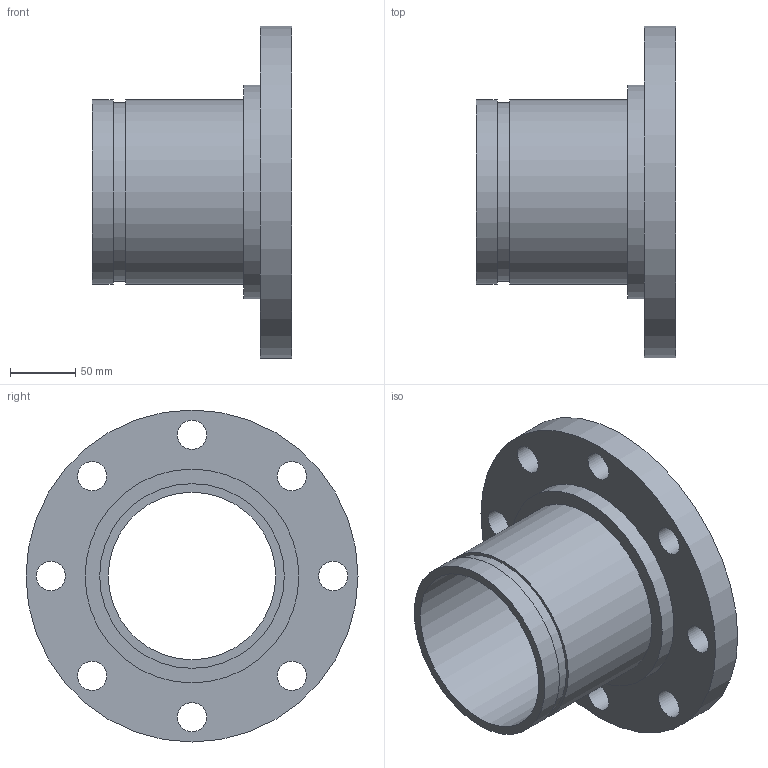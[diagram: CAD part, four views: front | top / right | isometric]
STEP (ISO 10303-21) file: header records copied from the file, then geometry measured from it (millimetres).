
FILE_DESCRIPTION(/* description */ ('VIC FLANGE ADAPTER No 45F','CAx-IF Rec.Pracs.---Representation and Presentation of Product Manufacturing Information (PMI)---4.0---2014-10-13'),/* implementation_level */ '2;1');
FILE_NAME(/* name */ 'C:\Users\kkamble\AppData\Roaming\Autodesk\ApplicationPlugins\Back Up\Victaulic_IPS_Flanged Adapter Nipple_CL 150 FF_No 45F (OGSxFLG)\Victaulic_IPS_Flanged Adapter Nipple_CL 150 FF_No 45F (OGSxFLG)_5 (125).stp',/* time_stamp */ '2020-07-26T22:23:05+06:00',/* author */ ('CONSTRUCTION PIPING SERVICES'),/* organization */ ('Victaulic'),/* preprocessor_version */ 'ST-DEVELOPER v17.2',/* originating_system */ 'Autodesk Inventor 2019',/* authorisation */ '');
FILE_SCHEMA (('AP242_MANAGED_MODEL_BASED_3D_ENGINEERING_MIM_LF { 1 0 10303 442 1 1 4 }'));
Length unit declared in the file: inch
Products named in the file (1): 045F-05.0
Bounding box: 152.4 x 254 x 254 mm (x, y, z)
Volume: 1242092.2 mm3; surface area: 222770.2 mm2
Topology: 1 solids, 1 shells, 20 faces, 54 edges, 40 vertices
Faces by surface type: cylinder 14, plane 6
Full cylindrical faces by diameter (mm): 22.352 x8, 128.194 x1, 137.033 x1, 141.3 x2, 163.576 x1, 254 x1
Entity records: 782 total; most frequent: DIRECTION 136, CARTESIAN_POINT 115, ORIENTED_EDGE 108, AXIS2_PLACEMENT_3D 61, EDGE_CURVE 54, EDGE_LOOP 42, CIRCLE 40, VERTEX_POINT 40
